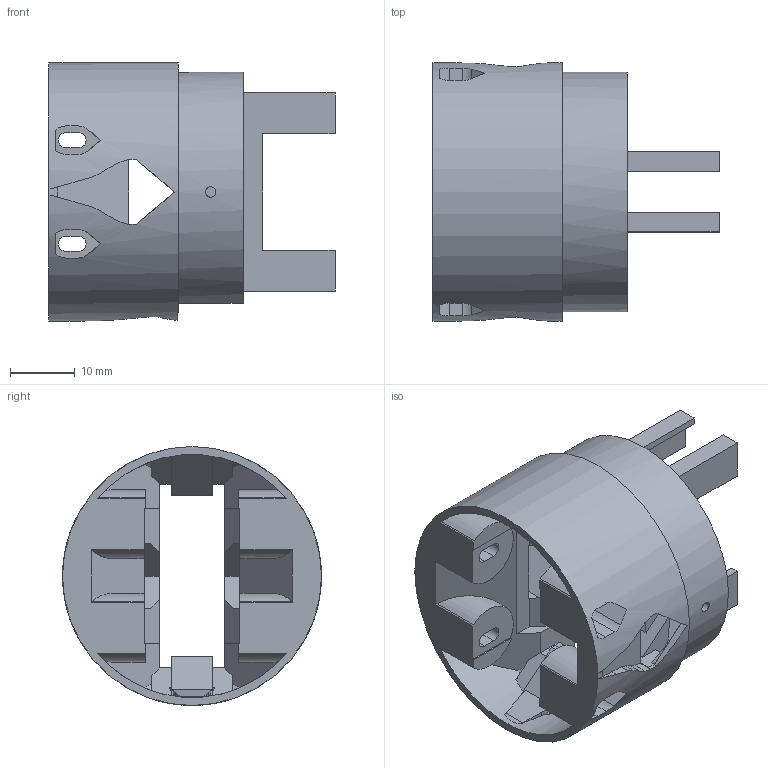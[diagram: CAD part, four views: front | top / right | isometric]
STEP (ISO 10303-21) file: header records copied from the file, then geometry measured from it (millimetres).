
FILE_DESCRIPTION(('SkyG Speed 90 - revision C6-9 - 2026-10-07','N0OD-nose-dji-o4-dome'),'2;1');
FILE_NAME('N0OD-nose-dji-o4-dome_C6-9','2026-10-07T14:03:25',('Author'),( 'Open CASCADE'),'Open CASCADE STEP processor 7.9','Open CASCADE 7.9' ,'Unknown');
FILE_SCHEMA(('AUTOMOTIVE_DESIGN { 1 0 10303 214 1 1 1 1 }'));
Length unit declared in the file: millimetre
Products named in the file (1): N0OD-nose-dji-o4-dome C6-9
Bounding box: 44.2 x 40 x 40 mm (x, y, z)
Volume: 15515.8 mm3; surface area: 13027 mm2
Topology: 1 solids, 1 shells, 371 faces, 1087 edges, 710 vertices
Faces by surface type: plane 262, cylinder 53, bspline 52, cone 4
Full cylindrical faces by diameter (mm): 1.6 x2, 40 x1
Entity records: 28321 total; most frequent: CARTESIAN_POINT 8677, DIRECTION 2998, ORIENTED_EDGE 2184, PCURVE 2174, DEFINITIONAL_REPRESENTATION 2174, LINE 1775, VECTOR 1775, EDGE_CURVE 1087
